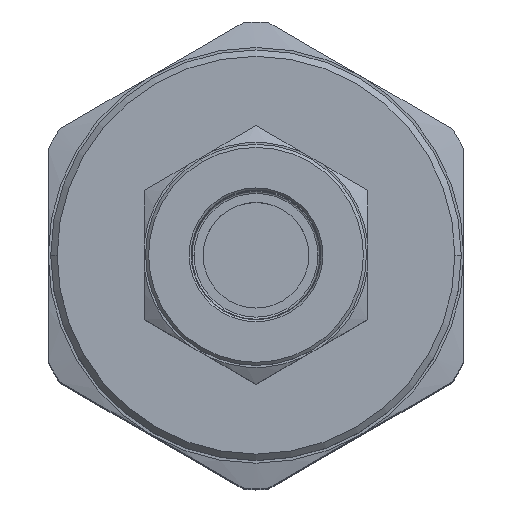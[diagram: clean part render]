
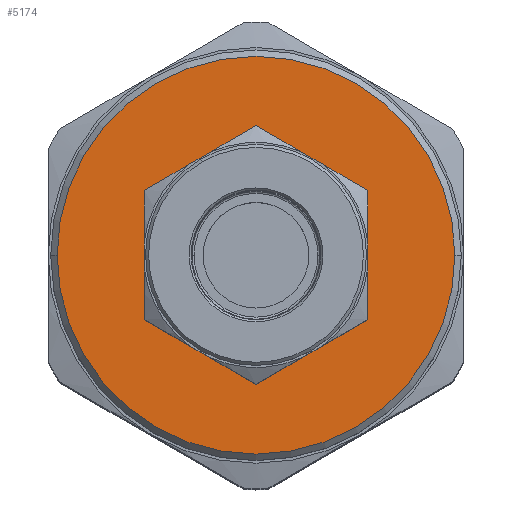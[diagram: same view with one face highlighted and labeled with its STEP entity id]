
A CAD part, top view. The second image highlights one B-rep face of the part: STEP entity #5174.
In plain terms, the highlighted planar face has unit normal (0, 0, 1) as drawn and (-1, 0, 0) by its records, which use the part's own axes.
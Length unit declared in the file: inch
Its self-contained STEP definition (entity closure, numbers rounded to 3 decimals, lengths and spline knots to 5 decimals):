
#527 = CARTESIAN_POINT ( 'NONE',  ( -2.7755, 0., -0.334 ) ) ;
#531 = FACE_OUTER_BOUND ( 'NONE', #2963, .T. ) ;
#532 = FACE_BOUND ( 'NONE', #2826, .T. ) ;
#533 = PLANE ( 'NONE',  #1382 ) ;
#535 = DIRECTION ( 'NONE',  ( -1., 0., 0. ) ) ;
#536 = DIRECTION ( 'NONE',  ( 0., 0., 1. ) ) ;
#1090 = CARTESIAN_POINT ( 'NONE',  ( -2.7755, 0., 0. ) ) ;
#1091 = DIRECTION ( 'NONE',  ( -1., 0., 0. ) ) ;
#1092 = DIRECTION ( 'NONE',  ( 0., 0., 1. ) ) ;
#1382 = AXIS2_PLACEMENT_3D ( 'NONE', #527, #535, #536 ) ;
#1796 = CARTESIAN_POINT ( 'NONE',  ( -2.7755, 0., 0. ) ) ;
#1797 = DIRECTION ( 'NONE',  ( -1., 0., 0. ) ) ;
#1798 = DIRECTION ( 'NONE',  ( 0., 0., 1. ) ) ;
#1799 = CARTESIAN_POINT ( 'NONE',  ( -2.7755, 0., 0. ) ) ;
#1800 = DIRECTION ( 'NONE',  ( -1., 0., 0. ) ) ;
#1801 = DIRECTION ( 'NONE',  ( 0., 0., 1. ) ) ;
#2148 = VERTEX_POINT ( 'NONE', #3594 ) ;
#2198 = VERTEX_POINT ( 'NONE', #3632 ) ;
#2201 = VERTEX_POINT ( 'NONE', #3635 ) ;
#2205 = VERTEX_POINT ( 'NONE', #3639 ) ;
#2425 = EDGE_CURVE ( 'NONE', #2198, #2201, #5879, .T. ) ;
#2826 = EDGE_LOOP ( 'NONE', ( #4369, #4361 ) ) ;
#2963 = EDGE_LOOP ( 'NONE', ( #4362, #4368 ) ) ;
#3594 = CARTESIAN_POINT ( 'NONE',  ( -2.7755, 0., -0.334 ) ) ;
#3632 = CARTESIAN_POINT ( 'NONE',  ( -2.7755, 0., 0.7775 ) ) ;
#3635 = CARTESIAN_POINT ( 'NONE',  ( -2.7755, 0., -0.7775 ) ) ;
#3639 = CARTESIAN_POINT ( 'NONE',  ( -2.7755, 0., 0.334 ) ) ;
#4122 = AXIS2_PLACEMENT_3D ( 'NONE', #1796, #1797, #1798 ) ;
#4157 = CIRCLE ( 'NONE', #4122, 0.334 ) ;
#4361 = ORIENTED_EDGE ( 'NONE', *, *, #5002, .F. ) ;
#4362 = ORIENTED_EDGE ( 'NONE', *, *, #5003, .T. ) ;
#4368 = ORIENTED_EDGE ( 'NONE', *, *, #2425, .T. ) ;
#4369 = ORIENTED_EDGE ( 'NONE', *, *, #5316, .F. ) ;
#4436 = CIRCLE ( 'NONE', #4492, 0.7775 ) ;
#4492 = AXIS2_PLACEMENT_3D ( 'NONE', #1799, #1800, #1801 ) ;
#4934 = CIRCLE ( 'NONE', #4938, 0.334 ) ;
#4938 = AXIS2_PLACEMENT_3D ( 'NONE', #1090, #1091, #1092 ) ;
#5002 = EDGE_CURVE ( 'NONE', #2148, #2205, #4157, .T. ) ;
#5003 = EDGE_CURVE ( 'NONE', #2201, #2198, #4436, .T. ) ;
#5174 = ADVANCED_FACE ( 'NONE', ( #531, #532 ), #533, .T. ) ;
#5316 = EDGE_CURVE ( 'NONE', #2205, #2148, #4934, .T. ) ;
#5569 = CARTESIAN_POINT ( 'NONE',  ( -2.7755, 0., 0. ) ) ;
#5570 = DIRECTION ( 'NONE',  ( -1., 0., 0. ) ) ;
#5571 = DIRECTION ( 'NONE',  ( 0., 0., 1. ) ) ;
#5874 = AXIS2_PLACEMENT_3D ( 'NONE', #5569, #5570, #5571 ) ;
#5879 = CIRCLE ( 'NONE', #5874, 0.7775 ) ;
